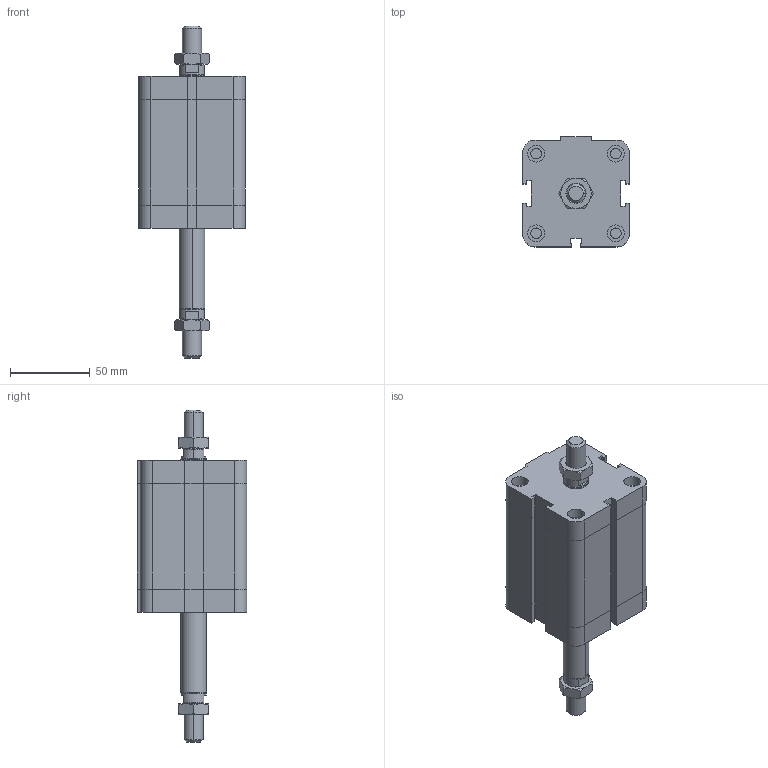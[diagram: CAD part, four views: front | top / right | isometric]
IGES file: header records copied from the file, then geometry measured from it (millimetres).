
Global section: file name: No Iges File Name specified; native system: Autodesk Inventor 2009; preprocessor: AutoDesk Inventor Iges Exporter R2009; author: maffial1; date: 20090420.200940; units: millimetre
Bounding box: 67 x 69 x 208.5 mm (x, y, z)
Volume: 421211.3 mm3; surface area: 59301.8 mm2
Topology: 4 solids, 4 shells, 260 faces, 574 edges, 342 vertices
Faces by surface type: plane 129, bspline 51, cone 38, cylinder 22, revolution 20
